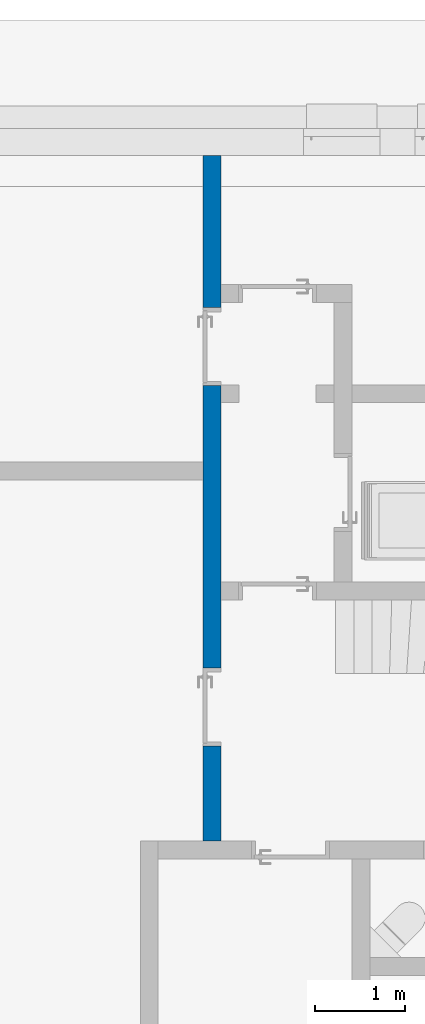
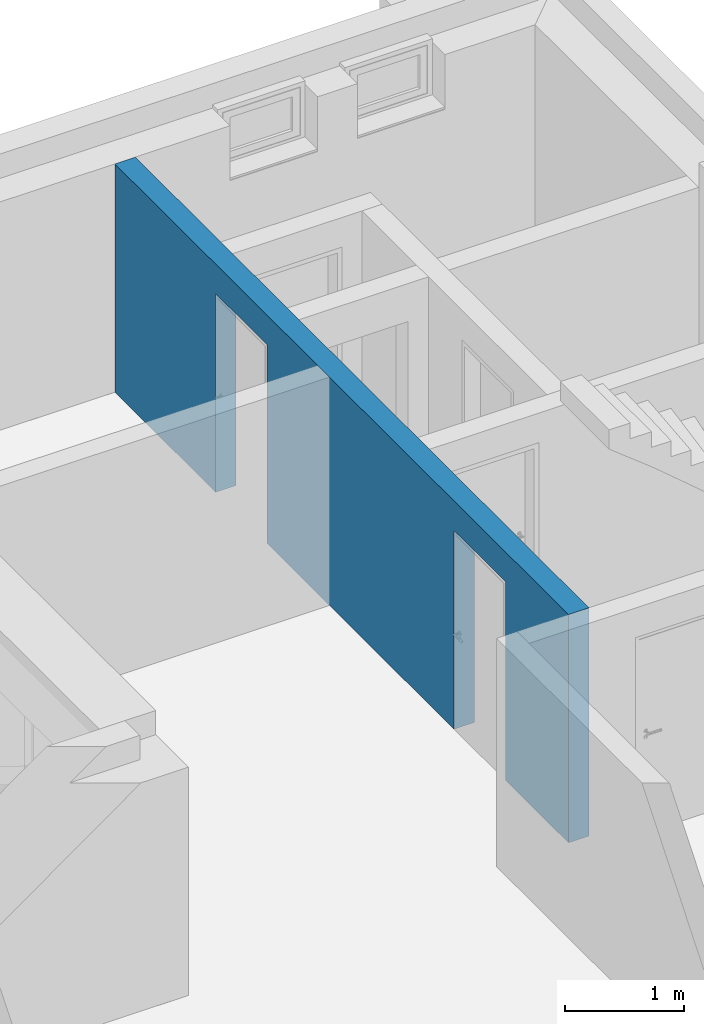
# One storey, part 7 of 22: 1 wall, 2 openings.
"""IFC2X3 building model written with IfcOpenShell, lengths in metres."""

from ifc_helpers import new_model, entity, si_unit, converted_unit, derived_unit, direction, frame, frame_2d, origin, place, context, subcontext, project, spatial, polyline, rectangle, extrude, clip, bounded_halfspace, material, layer, layer_set, layer_usage, type_object, element, save


model = new_model("IFC2X3")

# Units and contexts
model_context = context("Model", 3, precision=1e-05, world=origin(), true_north=direction((6.123233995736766e-17, 1.0)))
body_context = subcontext(model_context, "Body", "Model", "MODEL_VIEW")
ifc_project = project(units=[si_unit("LENGTHUNIT", "METRE"), si_unit("AREAUNIT", "SQUARE_METRE"), si_unit("VOLUMEUNIT", "CUBIC_METRE"), si_unit("POWERUNIT", "WATT"), derived_unit("USERDEFINED", [(si_unit("MASSUNIT", "GRAM", prefix="KILO"), 1), (si_unit("TIMEUNIT", "SECOND"), -3)]), derived_unit("THERMALRESISTANCEUNIT", [(si_unit("MASSUNIT", "GRAM", prefix="KILO"), -1), (si_unit("TIMEUNIT", "SECOND"), 3), (si_unit("THERMODYNAMICTEMPERATUREUNIT", "KELVIN"), 1)]), derived_unit("USERDEFINED", [(si_unit("MASSUNIT", "GRAM", prefix="KILO"), 1), (si_unit("TIMEUNIT", "SECOND"), -2), (si_unit("THERMODYNAMICTEMPERATUREUNIT", "KELVIN"), -1)]), derived_unit("THERMALTRANSMITTANCEUNIT", [(si_unit("MASSUNIT", "GRAM", prefix="KILO"), 1), (si_unit("TIMEUNIT", "SECOND"), -3), (si_unit("THERMODYNAMICTEMPERATUREUNIT", "KELVIN"), -1)]), converted_unit("PLANEANGLEUNIT", "DEGREE", entity("IfcPlaneAngleMeasure", 0.017453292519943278), si_unit("PLANEANGLEUNIT", "RADIAN"), dimensions=[0, 0, 0, 0, 0, 0, 0]), derived_unit("MOMENTOFINERTIAUNIT", [(si_unit("LENGTHUNIT", "METRE"), 4)])], contexts=[model_context])

# Site, building, storey
site_placement = place(None, origin())
site = spatial("IfcSite", under=ifc_project, at=site_placement, Name="Default", CompositionType="ELEMENT")
building_placement = place(site_placement, origin())
building = spatial("IfcBuilding", under=site, at=building_placement, CompositionType="ELEMENT")
storey_placement = place(building_placement, origin())
storey = spatial("IfcBuildingStorey", under=building, at=storey_placement, Name="Untergeschoss", CompositionType="ELEMENT", Elevation=0.0)

# Wall, openings
ifc_material = material(Name="Mauerwerk - Ziegel")
ifc_layer = layer(ifc_material, 0.2)
ifc_layer_set = layer_set([ifc_layer], Name="Basiswand:Ziegel 200")
ifc_layer_usage = layer_usage(ifc_layer_set, "AXIS2", "NEGATIVE", 0.1)
wall_type = type_object("IfcWallType", Name="Basiswand:Ziegel 200", PredefinedType="STANDARD", material=ifc_layer_set)
wall_placement = place(storey_placement, frame((34.08375489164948, 28.042272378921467, 0.0), z_axis=(0.0, 0.0, 1.0), x_axis=(0.0, -1.0, 0.0)))
wall = element("IfcWallStandardCase", 1, at=wall_placement, inside=storey, type_object=wall_type, material=ifc_layer_usage, Name="Basiswand:Ziegel 200", ObjectType="Basiswand:Ziegel 200", context=body_context, shape_type="Clipping", body=[
    clip(extrude(rectangle(XDim=7.650000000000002, YDim=0.20000000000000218, at=frame_2d((3.8250000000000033, -2.1024848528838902e-15), x_axis=(1.0, 0.0))), origin(), (0.0, 0.0, 1.0), 2.35), bounded_halfspace(frame((0.0, -0.1000000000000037, 2.35), z_axis=(0.0, 0.0, -1.0), x_axis=(0.0, 1.0, 0.0)), True, frame((0.0, -0.1000000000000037, 2.35)), polyline([(0.0, 0.0), (3.4199999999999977, 0.0), (3.62, 0.0), (7.650000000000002, 0.0), (7.650000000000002, 0.2000000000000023), (2.760000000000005, 0.20000000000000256), (2.5600000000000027, 0.20000000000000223), (1.6399999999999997, 0.20000000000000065), (1.4399999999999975, 0.20000000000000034), (0.0, 0.20000000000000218), (0.0, 0.0)]))),
])
opening_1_placement = place(wall_placement, frame((2.5699999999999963, 0.0999999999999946, -0.18000000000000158)))
element("IfcOpeningElement", 2, at=opening_1_placement, cuts=wall, Name="TU DF 1 - Rahmenstock flächenbündig:DL - 780 x 2000:1", ObjectType="Opening", context=body_context, shape_type="SweptSolid", body=[
    extrude(rectangle(XDim=2.224999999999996, YDim=0.8699999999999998, at=frame_2d((1.1124999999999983, 0.4350000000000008), x_axis=(-1.0, 0.0))), frame((0.0, 0.0, 0.0), z_axis=(0.0, -1.0, 0.0), x_axis=(0.0, 0.0, 1.0)), (0.0, 0.0, 1.0), 0.2),
])
opening_2_placement = place(wall_placement, frame((6.590000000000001, 0.09999999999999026, -0.18000000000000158)))
element("IfcOpeningElement", 3, at=opening_2_placement, cuts=wall, Name="TU DF 1 - Rahmenstock flächenbündig:DL - 900 x 2000:1", ObjectType="Opening", context=body_context, shape_type="SweptSolid", body=[
    extrude(rectangle(XDim=2.224999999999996, YDim=0.8699999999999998, at=frame_2d((1.1124999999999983, 0.4350000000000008), x_axis=(-1.0, 0.0))), frame((0.0, 0.0, 0.0), z_axis=(0.0, -1.0, 0.0), x_axis=(0.0, 0.0, 1.0)), (0.0, 0.0, 1.0), 0.2),
])

save(model, "model.ifc")
